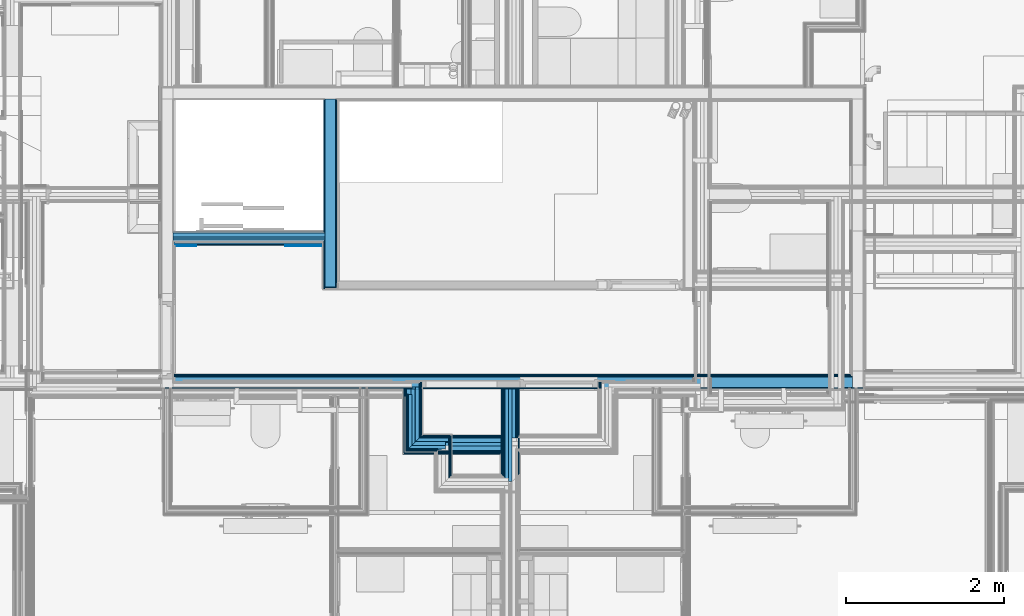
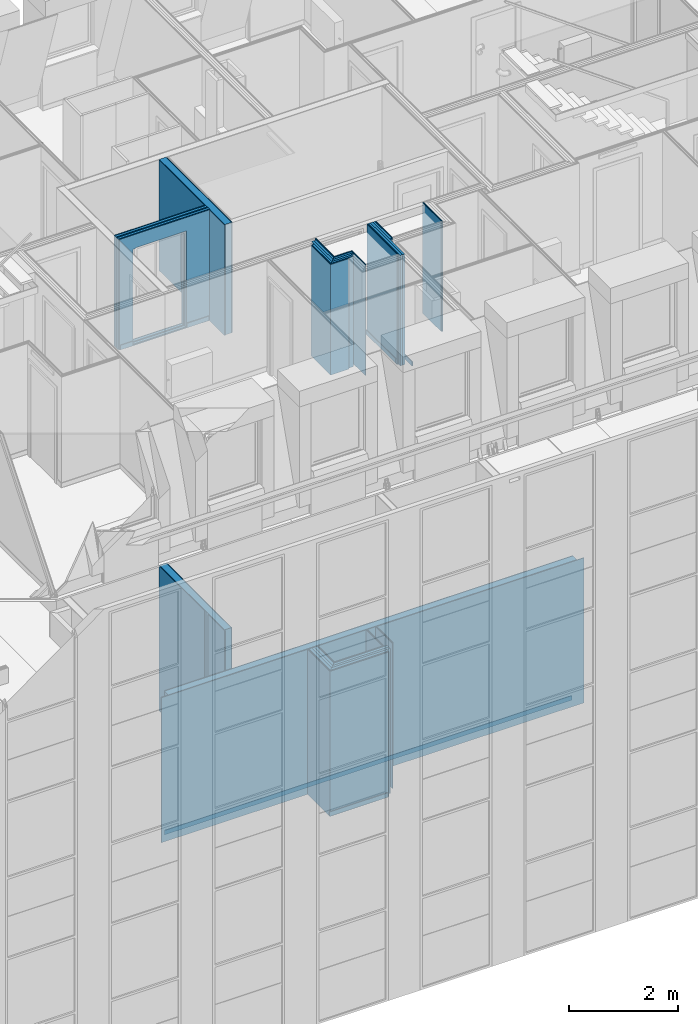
# One storey, part 22 of 169: 65 building element parts, 1 opening, 12 elements without a shape of their own.
"""IFC2X3 building model written with IfcOpenShell, lengths in metres."""

import ifcopenshell
import ifcopenshell.guid

model = None  # the IFC model being written
_history = None  # IfcOwnerHistory: only IFC2X3 demands one
_inside = {}  # id of a spatial element -> (the spatial element, [elements in it])
_under = {}  # id of a project, library or spatial element -> (it, [spatial elements below it])
_declared = {}  # id of a project -> (the project, [libraries it declares])
_typed = {}  # id of a type object -> (the type object, [elements of that type])
_made_of = {}  # id of a material, layer set ... -> (it, [elements and type objects made of it])


def new_model(schema):
    """Start an empty IFC model of exactly this schema.

    Asked for "IFC4X3", IfcOpenShell would pick the latest addendum, in which some entities
    have other attributes; the version numbers below select the first issue.
    IFC2X3 requires an IfcOwnerHistory on every rooted entity: one is made here for all.
    """
    global model, _history
    if schema == "IFC4X3":
        model = ifcopenshell.file(schema_version=(4, 3, 0, 0))
    else:
        model = ifcopenshell.file(schema=schema)
    _inside.clear()
    _under.clear()
    _declared.clear()
    _typed.clear()
    _made_of.clear()
    _history = None
    if model.schema == "IFC2X3":
        org = make("IfcOrganization", Name="unknown")
        user = make(
            "IfcPersonAndOrganization",
            ThePerson=make("IfcPerson", FamilyName="unknown"),
            TheOrganization=org,
        )
        app = make(
            "IfcApplication",
            ApplicationDeveloper=org,
            Version="unknown",
            ApplicationFullName="unknown",
            ApplicationIdentifier="unknown",
        )
        _history = make(
            "IfcOwnerHistory",
            OwningUser=user,
            OwningApplication=app,
            ChangeAction="ADDED",
            CreationDate=0,
        )
    return model


def make(cls, **values):
    """One entity of the class cls with the attributes given. An attribute that is None is left unset."""
    return model.create_entity(
        cls, **{name: value for name, value in values.items() if value is not None}
    )


def entity(cls, *values):
    """Any entity or typed value of the class cls, its attributes in the order of the schema. None: left unset."""
    e = model.create_entity(cls)
    for i, value in enumerate(values):
        if value is not None:
            e[i] = value
    return e


def rooted(cls, **values):
    """An entity with a GlobalId (a new one), such as an element, a storey or a relation."""
    return make(cls, GlobalId=ifcopenshell.guid.new(), OwnerHistory=_history, **values)


def si_unit(unit_type, name, prefix=None):
    """IfcSIUnit, for example si_unit("LENGTHUNIT", "METRE", prefix="MILLI")."""
    return make("IfcSIUnit", UnitType=unit_type, Prefix=prefix, Name=name)


def converted_unit(unit_type, name, factor, base, dimensions=None, offset=None):
    """IfcConversionBasedUnit, such as the inch: factor (a typed value) times the base unit."""
    return make(
        "IfcConversionBasedUnit"
        if offset is None
        else "IfcConversionBasedUnitWithOffset",
        ConversionOffset=offset,
        Dimensions=None
        if dimensions is None
        else entity("IfcDimensionalExponents", *dimensions),
        UnitType=unit_type,
        Name=name,
        ConversionFactor=make(
            "IfcMeasureWithUnit", ValueComponent=factor, UnitComponent=base
        ),
    )


def derived_unit(unit_type, elements):
    """IfcDerivedUnit: a product of units, each with its exponent."""
    return make(
        "IfcDerivedUnit",
        Elements=[
            make("IfcDerivedUnitElement", Unit=unit, Exponent=power)
            for unit, power in elements
        ],
        UnitType=unit_type,
    )


def money_unit(currency):
    """IfcMonetaryUnit."""
    return make("IfcMonetaryUnit", Currency=currency)


def assignment(units):
    """IfcUnitAssignment: the units of a project."""
    return None if units is None else make("IfcUnitAssignment", Units=units)


def point(xyz):
    """IfcCartesianPoint."""
    return None if xyz is None else make("IfcCartesianPoint", Coordinates=xyz)


def direction(xyz):
    """IfcDirection."""
    return None if xyz is None else make("IfcDirection", DirectionRatios=xyz)


def frame(location, z_axis=None, x_axis=None):
    """IfcAxis2Placement3D, a coordinate frame: its origin and axes. An axis left out is left unset."""
    return make(
        "IfcAxis2Placement3D",
        Location=point(location),
        Axis=direction(z_axis),
        RefDirection=direction(x_axis),
    )


def frame_2d(location, x_axis=None):
    """IfcAxis2Placement2D, a coordinate frame in the plane: its origin and x axis."""
    return make(
        "IfcAxis2Placement2D", Location=point(location), RefDirection=direction(x_axis)
    )


def origin_with_axes():
    """The frame at (0, 0, 0) with the z axis (0, 0, 1) and the x axis (1, 0, 0) written out."""
    return frame((0.0, 0.0, 0.0), z_axis=(0.0, 0.0, 1.0), x_axis=(1.0, 0.0, 0.0))


def place(relative_to, where):
    """IfcLocalPlacement: puts the frame where relative to a parent placement (None: the world)."""
    return make(
        "IfcLocalPlacement", PlacementRelTo=relative_to, RelativePlacement=where
    )


def context(
    kind, dimensions, precision=None, world=None, true_north=None, identifier=None
):
    """IfcGeometricRepresentationContext, for example the 3D "Model" context."""
    return make(
        "IfcGeometricRepresentationContext",
        ContextIdentifier=identifier,
        ContextType=kind,
        CoordinateSpaceDimension=dimensions,
        Precision=precision,
        WorldCoordinateSystem=world,
        TrueNorth=true_north,
    )


def subcontext(parent, identifier, kind, view, scale=None):
    """IfcGeometricRepresentationSubContext, for example "Body" below "Model"."""
    return make(
        "IfcGeometricRepresentationSubContext",
        ContextIdentifier=identifier,
        ContextType=kind,
        ParentContext=parent,
        TargetScale=scale,
        TargetView=view,
    )


def project(units=None, contexts=None):
    """IfcProject with its units and contexts."""
    return rooted(
        "IfcProject",
        Name="project",
        RepresentationContexts=contexts,
        UnitsInContext=assignment(units),
    )


def spatial(cls, under=None, at=None, **own):
    """A site, building, storey or space (cls), placed at a placement, below another one or the project."""
    s = rooted(cls, ObjectPlacement=at, **own)
    if under is not None:
        _under.setdefault(under.id(), (under, []))[1].append(s)
    return s


def polyline(points):
    """IfcPolyline through the points."""
    return make("IfcPolyline", Points=[point(p) for p in points])


def profile(cls, at=None, kind="AREA", **sizes):
    """A parametric profile (cls). Its sizes go by their IFC names, for example OverallWidth=200.0."""
    return make(cls, ProfileType=kind, Position=at, **sizes)


def rectangle(**sizes):
    """IfcRectangleProfileDef."""
    return profile("IfcRectangleProfileDef", **sizes)


def outline(outer, holes=None, kind="AREA"):
    """IfcArbitraryClosedProfileDef: a profile drawn as a closed curve; with holes, ...WithVoids."""
    if holes is None:
        return make("IfcArbitraryClosedProfileDef", ProfileType=kind, OuterCurve=outer)
    return make(
        "IfcArbitraryProfileDefWithVoids",
        ProfileType=kind,
        OuterCurve=outer,
        InnerCurves=holes,
    )


def extrude(swept, where, along, depth):
    """IfcExtrudedAreaSolid: the profile swept, set in the frame where, extruded along a direction by depth."""
    return make(
        "IfcExtrudedAreaSolid",
        SweptArea=swept,
        Position=where,
        ExtrudedDirection=direction(along),
        Depth=depth,
    )


def shape(context_of_items, identifier, shape_type, items):
    """IfcShapeRepresentation: the items that make up one representation, for example the "Body"."""
    return make(
        "IfcShapeRepresentation",
        ContextOfItems=context_of_items,
        RepresentationIdentifier=identifier,
        RepresentationType=shape_type,
        Items=items,
    )


def material(Name=None, Category=None):
    """IfcMaterial."""
    return make("IfcMaterial", Name=Name, Category=Category)


def made_of(thing, what):
    """Note that an element or type object is made of a material, layer set ...; save() writes the relation."""
    if what is not None:
        _made_of.setdefault(what.id(), (what, []))[1].append(thing)
    return thing


def type_object(cls, material=None, **own):
    """A type object (cls), such as IfcWallType, which elements share."""
    return made_of(rooted(cls, **own), material)


def element(
    cls,
    number,
    at=None,
    inside=None,
    cuts=None,
    type_object=None,
    material=None,
    context=None,
    identifier="Body",
    shape_type=None,
    held_by="IfcProductDefinitionShape",
    body=None,
    shapes=None,
    **own,
):
    """One element of the class cls, such as IfcWall. Its Tag is "e" and its number.

    at: its placement. inside: the storey or other place that contains it. cuts: it is an
    opening in that element (IfcRelVoidsElement). A single representation is given by context,
    identifier, shape_type and body (its items); several are given by shapes. held_by: the class
    of the entity that holds the representations. save() writes the other relations.
    """
    e = rooted(cls, Tag="e%d" % number, ObjectPlacement=at, **own)
    if body is not None:
        shapes = [shape(context, identifier, shape_type, body)]
    if shapes is not None:
        e.Representation = make(held_by, Representations=shapes)
    if inside is not None:
        _inside.setdefault(inside.id(), (inside, []))[1].append(e)
    if cuts is not None:
        rooted(
            "IfcRelVoidsElement", RelatingBuildingElement=cuts, RelatedOpeningElement=e
        )
    if type_object is not None:
        _typed.setdefault(type_object.id(), (type_object, []))[1].append(e)
    return made_of(e, material)


def aggregate(whole, parts):
    """IfcRelAggregates: a whole, such as a stair, and the parts it consists of."""
    return rooted("IfcRelAggregates", RelatingObject=whole, RelatedObjects=parts)


def save(model, path):
    """Write the relations noted so far, then the file.

    IfcRelAggregates (storeys below a building ...), IfcRelContainedInSpatialStructure (elements
    in a storey), IfcRelDefinesByType, IfcRelAssociatesMaterial and IfcRelDeclares: one each for
    every whole, place, type object, material and project.
    """
    for whole, parts in _under.values():
        aggregate(whole, parts)
    for where, things in _inside.values():
        rooted(
            "IfcRelContainedInSpatialStructure",
            RelatedElements=things,
            RelatingStructure=where,
        )
    for kind, things in _typed.values():
        rooted("IfcRelDefinesByType", RelatedObjects=things, RelatingType=kind)
    for what, things in _made_of.values():
        rooted("IfcRelAssociatesMaterial", RelatedObjects=things, RelatingMaterial=what)
    for by, libraries in _declared.values():
        rooted("IfcRelDeclares", RelatingContext=by, RelatedDefinitions=libraries)
    model.write(path)


model = new_model("IFC2X3")

# Units and contexts
model_context = context("Model", 3, precision=1e-05, world=origin_with_axes(), true_north=direction((0.0, 1.0)))
body_context = subcontext(model_context, "Body", "Model", "MODEL_VIEW", scale=1.0)
ifc_project = project(units=[si_unit("LENGTHUNIT", "METRE"), si_unit("AREAUNIT", "SQUARE_METRE"), si_unit("VOLUMEUNIT", "CUBIC_METRE"), si_unit("ABSORBEDDOSEUNIT", "GRAY"), si_unit("AMOUNTOFSUBSTANCEUNIT", "MOLE"), si_unit("DOSEEQUIVALENTUNIT", "SIEVERT"), si_unit("ELECTRICCAPACITANCEUNIT", "FARAD"), si_unit("ELECTRICCHARGEUNIT", "COULOMB"), si_unit("ELECTRICCONDUCTANCEUNIT", "SIEMENS"), si_unit("ELECTRICCURRENTUNIT", "AMPERE"), si_unit("ELECTRICRESISTANCEUNIT", "OHM"), si_unit("ELECTRICVOLTAGEUNIT", "VOLT"), si_unit("ENERGYUNIT", "JOULE"), si_unit("FORCEUNIT", "NEWTON"), si_unit("FREQUENCYUNIT", "HERTZ"), si_unit("ILLUMINANCEUNIT", "LUX"), si_unit("INDUCTANCEUNIT", "HENRY"), si_unit("LUMINOUSFLUXUNIT", "LUMEN"), si_unit("LUMINOUSINTENSITYUNIT", "CANDELA"), si_unit("MAGNETICFLUXDENSITYUNIT", "TESLA"), si_unit("MAGNETICFLUXUNIT", "WEBER"), si_unit("MASSUNIT", "GRAM"), converted_unit("PLANEANGLEUNIT", "degree", entity("IfcReal", 0.0174532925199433), si_unit("PLANEANGLEUNIT", "RADIAN"), dimensions=[0, 0, 0, 0, 0, 0, 0]), si_unit("POWERUNIT", "WATT"), si_unit("PRESSUREUNIT", "PASCAL"), si_unit("RADIOACTIVITYUNIT", "BECQUEREL"), si_unit("SOLIDANGLEUNIT", "STERADIAN"), si_unit("THERMODYNAMICTEMPERATUREUNIT", "KELVIN"), si_unit("TIMEUNIT", "SECOND"), derived_unit("ACCELERATIONUNIT", [(si_unit("LENGTHUNIT", "METRE"), 1), (si_unit("TIMEUNIT", "SECOND"), -2)]), derived_unit("ANGULARVELOCITYUNIT", [(converted_unit("PLANEANGLEUNIT", "degree", entity("IfcReal", 0.0174532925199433), si_unit("PLANEANGLEUNIT", "RADIAN"), dimensions=[0, 0, 0, 0, 0, 0, 0]), 1), (si_unit("TIMEUNIT", "SECOND"), -1)]), derived_unit("CURVATUREUNIT", [(converted_unit("PLANEANGLEUNIT", "degree", entity("IfcReal", 0.0174532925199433), si_unit("PLANEANGLEUNIT", "RADIAN"), dimensions=[0, 0, 0, 0, 0, 0, 0]), 1), (si_unit("LENGTHUNIT", "METRE"), -1)]), derived_unit("DYNAMICVISCOSITYUNIT", [(si_unit("PRESSUREUNIT", "PASCAL"), 1), (si_unit("TIMEUNIT", "SECOND"), 1)]), derived_unit("HEATFLUXDENSITYUNIT", [(si_unit("POWERUNIT", "WATT"), 1), (si_unit("LENGTHUNIT", "METRE"), -2)]), derived_unit("HEATINGVALUEUNIT", [(si_unit("ENERGYUNIT", "JOULE"), 1), (si_unit("MASSUNIT", "GRAM"), -1)]), derived_unit("INTEGERCOUNTRATEUNIT", [(si_unit("TIMEUNIT", "SECOND"), -1)]), derived_unit("IONCONCENTRATIONUNIT", [(si_unit("MASSUNIT", "GRAM"), 1), (si_unit("VOLUMEUNIT", "CUBIC_METRE"), -1)]), derived_unit("ISOTHERMALMOISTURECAPACITYUNIT", [(si_unit("VOLUMEUNIT", "CUBIC_METRE"), 1), (si_unit("MASSUNIT", "GRAM"), -1)]), derived_unit("KINEMATICVISCOSITYUNIT", [(si_unit("AREAUNIT", "SQUARE_METRE"), 1), (si_unit("TIMEUNIT", "SECOND"), -1)]), derived_unit("LINEARFORCEUNIT", [(si_unit("FORCEUNIT", "NEWTON"), 1), (si_unit("LENGTHUNIT", "METRE"), -1)]), derived_unit("LINEARMOMENTUNIT", [(si_unit("FORCEUNIT", "NEWTON"), 1), (si_unit("LENGTHUNIT", "METRE"), -1)]), derived_unit("LINEARSTIFFNESSUNIT", [(si_unit("FORCEUNIT", "NEWTON"), 1), (si_unit("LENGTHUNIT", "METRE"), -1)]), derived_unit("LINEARVELOCITYUNIT", [(si_unit("LENGTHUNIT", "METRE"), 1), (si_unit("TIMEUNIT", "SECOND"), -1)]), derived_unit("LUMINOUSINTENSITYDISTRIBUTIONUNIT", [(si_unit("LUMINOUSINTENSITYUNIT", "CANDELA"), 1), (si_unit("LUMINOUSFLUXUNIT", "LUMEN"), -1)]), derived_unit("MASSDENSITYUNIT", [(si_unit("MASSUNIT", "GRAM"), 1), (si_unit("VOLUMEUNIT", "CUBIC_METRE"), -1)]), derived_unit("MASSFLOWRATEUNIT", [(si_unit("MASSUNIT", "GRAM"), 1), (si_unit("TIMEUNIT", "SECOND"), -1)]), derived_unit("MASSPERLENGTHUNIT", [(si_unit("MASSUNIT", "GRAM"), 1), (si_unit("LENGTHUNIT", "METRE"), -1)]), derived_unit("MODULUSOFELASTICITYUNIT", [(si_unit("FORCEUNIT", "NEWTON"), 1), (si_unit("AREAUNIT", "SQUARE_METRE"), -1)]), derived_unit("MODULUSOFLINEARSUBGRADEREACTIONUNIT", [(si_unit("FORCEUNIT", "NEWTON"), 1), (si_unit("LENGTHUNIT", "METRE"), -2)]), derived_unit("MODULUSOFROTATIONALSUBGRADEREACTIONUNIT", [(si_unit("FORCEUNIT", "NEWTON"), 1), (si_unit("LENGTHUNIT", "METRE"), 1)]), derived_unit("MODULUSOFSUBGRADEREACTIONUNIT", [(si_unit("FORCEUNIT", "NEWTON"), 1), (si_unit("VOLUMEUNIT", "CUBIC_METRE"), -1)]), derived_unit("MOISTUREDIFFUSIVITYUNIT", [(si_unit("VOLUMEUNIT", "CUBIC_METRE"), 1), (si_unit("TIMEUNIT", "SECOND"), -1)]), derived_unit("MOLECULARWEIGHTUNIT", [(si_unit("MASSUNIT", "GRAM"), 1), (si_unit("AMOUNTOFSUBSTANCEUNIT", "MOLE"), -1)]), derived_unit("PLANARFORCEUNIT", [(si_unit("FORCEUNIT", "NEWTON"), 1), (si_unit("LENGTHUNIT", "METRE"), -2)]), derived_unit("ROTATIONALFREQUENCYUNIT", [(si_unit("TIMEUNIT", "SECOND"), -1)]), derived_unit("ROTATIONALMASSUNIT", [(si_unit("MASSUNIT", "GRAM"), 1), (si_unit("LENGTHUNIT", "METRE"), 2)]), derived_unit("ROTATIONALSTIFFNESSUNIT", [(si_unit("FORCEUNIT", "NEWTON"), 1), (si_unit("LENGTHUNIT", "METRE"), 1), (converted_unit("PLANEANGLEUNIT", "degree", entity("IfcReal", 0.0174532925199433), si_unit("PLANEANGLEUNIT", "RADIAN"), dimensions=[0, 0, 0, 0, 0, 0, 0]), -1)]), derived_unit("SECTIONAREAINTEGRALUNIT", [(si_unit("LENGTHUNIT", "METRE"), 5)]), derived_unit("SECTIONMODULUSUNIT", [(si_unit("LENGTHUNIT", "METRE"), 3)]), derived_unit("SHEARMODULUSUNIT", [(si_unit("FORCEUNIT", "NEWTON"), 1), (si_unit("AREAUNIT", "SQUARE_METRE"), -1)]), derived_unit("SOUNDPOWERUNIT", [(si_unit("ENERGYUNIT", "JOULE"), 1), (si_unit("TIMEUNIT", "SECOND"), -1)]), derived_unit("SPECIFICHEATCAPACITYUNIT", [(si_unit("FORCEUNIT", "NEWTON"), 1), (si_unit("MASSUNIT", "GRAM"), -1), (si_unit("THERMODYNAMICTEMPERATUREUNIT", "KELVIN"), -1)]), derived_unit("TEMPERATUREGRADIENTUNIT", [(si_unit("THERMODYNAMICTEMPERATUREUNIT", "KELVIN"), 1), (si_unit("LENGTHUNIT", "METRE"), -1)]), derived_unit("THERMALADMITTANCEUNIT", [(si_unit("POWERUNIT", "WATT"), 1), (si_unit("AREAUNIT", "SQUARE_METRE"), -1), (si_unit("THERMODYNAMICTEMPERATUREUNIT", "KELVIN"), -1)]), derived_unit("THERMALCONDUCTANCEUNIT", [(si_unit("POWERUNIT", "WATT"), 1), (si_unit("LENGTHUNIT", "METRE"), -1), (si_unit("THERMODYNAMICTEMPERATUREUNIT", "KELVIN"), -1)]), derived_unit("THERMALEXPANSIONCOEFFICIENTUNIT", [(si_unit("THERMODYNAMICTEMPERATUREUNIT", "KELVIN"), -1)]), derived_unit("THERMALRESISTANCEUNIT", [(si_unit("AREAUNIT", "SQUARE_METRE"), 1), (si_unit("POWERUNIT", "WATT"), -1)]), derived_unit("THERMALTRANSMITTANCEUNIT", [(si_unit("POWERUNIT", "WATT"), 1), (si_unit("AREAUNIT", "SQUARE_METRE"), -1), (si_unit("THERMODYNAMICTEMPERATUREUNIT", "KELVIN"), -1)]), derived_unit("TORQUEUNIT", [(si_unit("FORCEUNIT", "NEWTON"), 1), (si_unit("LENGTHUNIT", "METRE"), 1)]), derived_unit("VAPORPERMEABILITYUNIT", [(si_unit("MASSUNIT", "GRAM"), 1), (si_unit("TIMEUNIT", "SECOND"), -1)]), derived_unit("VOLUMETRICFLOWRATEUNIT", [(si_unit("VOLUMEUNIT", "CUBIC_METRE"), 1), (si_unit("TIMEUNIT", "SECOND"), -1)]), derived_unit("WARPINGCONSTANTUNIT", [(si_unit("LENGTHUNIT", "METRE"), 6)]), derived_unit("WARPINGMOMENTUNIT", [(si_unit("FORCEUNIT", "NEWTON"), 1), (si_unit("LENGTHUNIT", "METRE"), 2)]), money_unit("GBP")], contexts=[model_context])

# Site, building, storey
site_placement = place(None, origin_with_axes())
site = spatial("IfcSite", under=ifc_project, at=site_placement, Name="Site", CompositionType="ELEMENT")
building_placement = place(site_placement, origin_with_axes())
building = spatial("IfcBuilding", under=site, at=building_placement, Name="Building01", CompositionType="ELEMENT")
storey_placement = place(building_placement, frame((0.0, 0.0, 5.15), z_axis=(0.0, 0.0, 1.0), x_axis=(1.0, 0.0, 0.0)))
storey = spatial("IfcBuildingStorey", under=building, at=storey_placement, Name="1F", CompositionType="ELEMENT", Elevation=5.15)

# Wall, building element parts
wall_type_1 = type_object("IfcWallType", Name="SHE_A-Walls_Type03a_BlockworkWall_170mm", PredefinedType="NOTDEFINED")
wall_1_placement = place(storey_placement, frame((11.145, 6.275, 0.0), z_axis=(0.0, 0.0, 1.0), x_axis=(0.0, 1.0, 0.0)))
wall_1 = element("IfcWall", 1, at=wall_1_placement, inside=storey, type_object=wall_type_1, Name="4B", ObjectType="SHE_A-Walls_Type03a_BlockworkWall_170mm")
ifc_material_1 = material(Name="A_BSUK_WallInternal_Finishes_Plasterboard")
placement_1 = place(wall_1_placement, origin_with_axes())
building_element_part_1 = element("IfcBuildingElementPart", 2, at=placement_1, material=ifc_material_1, Name="2", context=body_context, shape_type="SweptSolid", body=[
    extrude(rectangle(XDim=2.375, YDim=0.015, at=frame_2d((1.1875, -0.1475), x_axis=(-1.0, 0.0))), origin_with_axes(), (0.0, 0.0, 1.0), 3.24),
])
ifc_material_2 = material(Name="A_BSUK_WallsInternal_Block")
building_element_part_2 = element("IfcBuildingElementPart", 3, at=placement_1, material=ifc_material_2, Name="3", context=body_context, shape_type="SweptSolid", body=[
    extrude(rectangle(XDim=2.39, YDim=0.14, at=frame_2d((1.195, -0.07), x_axis=(-1.0, 0.0))), origin_with_axes(), (0.0, 0.0, 1.0), 3.24),
])
ifc_material_3 = material(Name="A_BSUK_WallInternal_Finishes_Plaster")
building_element_part_3 = element("IfcBuildingElementPart", 4, at=placement_1, material=ifc_material_3, Name="4", context=body_context, shape_type="SweptSolid", body=[
    extrude(outline(polyline([(0.575, 0.015), (-0.025, 0.015), (-0.025, 0.0), (0.59, 0.0), (0.575, 0.015)])), origin_with_axes(), (0.0, 0.0, 1.0), 3.24),
])
building_element_part_4 = element("IfcBuildingElementPart", 5, at=placement_1, material=ifc_material_3, Name="5", context=body_context, shape_type="SweptSolid", body=[
    extrude(outline(polyline([(2.375, 0.015), (0.705, 0.015), (0.69, 0.0), (2.375, 0.0), (2.375, 0.015)])), origin_with_axes(), (0.0, 0.0, 1.0), 3.24),
])
aggregate(wall_1, [building_element_part_1, building_element_part_2, building_element_part_3, building_element_part_4])

wall_type_2 = type_object("IfcWallType", Name="SHE_A-Walls_Type01c_Partywall_225mm_twin_tall", PredefinedType="NOTDEFINED")
wall_2_placement = place(storey_placement, frame((12.288, 4.302428, 0.0), z_axis=(0.0, 0.0, 1.0), x_axis=(1.0, 0.0, 0.0)))
wall_2 = element("IfcWall", 6, at=wall_2_placement, inside=storey, type_object=wall_type_2, Name="1C", ObjectType="SHE_A-Walls_Type01c_Partywall_225mm_twin_tall")
ifc_material_4 = material(Name="A_BSUK_Walls_Timber")
placement_2 = place(wall_2_placement, origin_with_axes())
building_element_part_5 = element("IfcBuildingElementPart", 7, at=placement_2, material=ifc_material_4, Name="1", context=body_context, shape_type="SweptSolid", body=[
    extrude(rectangle(XDim=1.2375, YDim=0.015, at=frame_2d((0.46575, -0.1455), x_axis=(-1.0, 0.0))), frame((0.0, 0.0, 0.015), z_axis=(0.0, 0.0, 1.0), x_axis=(1.0, 0.0, 0.0)), (0.0, 0.0, 1.0), 0.1),
])
building_element_part_6 = element("IfcBuildingElementPart", 8, at=placement_2, material=ifc_material_1, Name="2", context=body_context, shape_type="SweptSolid", body=[
    extrude(outline(polyline([(1.0995, -0.123), (-0.123, -0.123), (-0.138, -0.138), (1.0995, -0.138), (1.0995, -0.123)])), origin_with_axes(), (0.0, 0.0, 1.0), 3.24),
])
building_element_part_7 = element("IfcBuildingElementPart", 9, at=placement_2, material=ifc_material_1, Name="3", context=body_context, shape_type="SweptSolid", body=[
    extrude(outline(polyline([(1.1145, -0.108), (-0.108, -0.108), (-0.123, -0.123), (1.1145, -0.123), (1.1145, -0.108)])), origin_with_axes(), (0.0, 0.0, 1.0), 3.24),
])
ifc_material_5 = material(Name="Air Cavity")
building_element_part_8 = element("IfcBuildingElementPart", 10, at=placement_2, material=ifc_material_5, Name="4", context=body_context, shape_type="SweptSolid", body=[
    extrude(outline(polyline([(1.1145, -0.05), (-0.05, -0.05), (-0.108, -0.108), (1.1145, -0.108), (1.1145, -0.05)])), origin_with_axes(), (0.0, 0.0, 1.0), 3.24),
])
ifc_material_6 = material(Name="A_BSUK_Insulation")
building_element_part_9 = element("IfcBuildingElementPart", 11, at=placement_2, material=ifc_material_6, Name="5", context=body_context, shape_type="SweptSolid", body=[
    extrude(outline(polyline([(1.1875, 0.0), (0.0, 0.0), (-0.05, -0.05), (1.1875, -0.05), (1.1875, 0.0)])), origin_with_axes(), (0.0, 0.0, 1.0), 3.24),
])
building_element_part_10 = element("IfcBuildingElementPart", 12, at=placement_2, material=ifc_material_5, Name="6", context=body_context, shape_type="SweptSolid", body=[
    extrude(outline(polyline([(1.1875, 0.057), (0.057, 0.057), (0.0, 0.0), (1.1875, 0.0), (1.1875, 0.057)])), origin_with_axes(), (0.0, 0.0, 1.0), 3.24),
])
building_element_part_11 = element("IfcBuildingElementPart", 13, at=placement_2, material=ifc_material_1, Name="7", context=body_context, shape_type="SweptSolid", body=[
    extrude(outline(polyline([(1.1145, 0.072), (0.072, 0.072), (0.057, 0.057), (1.1145, 0.057), (1.1145, 0.072)])), origin_with_axes(), (0.0, 0.0, 1.0), 3.24),
])
building_element_part_12 = element("IfcBuildingElementPart", 14, at=placement_2, material=ifc_material_1, Name="8", context=body_context, shape_type="SweptSolid", body=[
    extrude(outline(polyline([(1.1145, 0.087), (0.087, 0.087), (0.072, 0.072), (1.1145, 0.072), (1.1145, 0.087)])), origin_with_axes(), (0.0, 0.0, 1.0), 3.24),
])
aggregate(wall_2, [building_element_part_5, building_element_part_6, building_element_part_7, building_element_part_8, building_element_part_9, building_element_part_10, building_element_part_11, building_element_part_12])

wall_3_placement = place(storey_placement, frame((13.5005, 4.995, 0.0), z_axis=(0.0, 0.0, 1.0), x_axis=(0.0, -1.0, 0.0)))
wall_3 = element("IfcWall", 15, at=wall_3_placement, inside=storey, type_object=wall_type_2, Name="1C", ObjectType="SHE_A-Walls_Type01c_Partywall_225mm_twin_tall")
placement_3 = place(wall_3_placement, origin_with_axes())
building_element_part_13 = element("IfcBuildingElementPart", 16, at=placement_3, material=ifc_material_1, Name="2", context=body_context, shape_type="SweptSolid", body=[
    extrude(rectangle(XDim=0.590572, YDim=0.015, at=frame_2d((0.310286, -0.1055), x_axis=(-1.0, 0.0))), origin_with_axes(), (0.0, 0.0, 1.0), 3.24),
])
building_element_part_14 = element("IfcBuildingElementPart", 17, at=placement_3, material=ifc_material_1, Name="4", context=body_context, shape_type="SweptSolid", body=[
    extrude(rectangle(XDim=0.620572, YDim=0.015, at=frame_2d((0.325286, -0.0905), x_axis=(-1.0, 0.0))), origin_with_axes(), (0.0, 0.0, 1.0), 3.24),
])
building_element_part_15 = element("IfcBuildingElementPart", 18, at=placement_3, material=ifc_material_1, Name="9", context=body_context, shape_type="SweptSolid", body=[
    extrude(rectangle(XDim=0.620572, YDim=0.015, at=frame_2d((0.325286, 0.0895), x_axis=(-1.0, 0.0))), origin_with_axes(), (0.0, 0.0, 1.0), 3.24),
])
building_element_part_16 = element("IfcBuildingElementPart", 19, at=placement_3, material=ifc_material_1, Name="11", context=body_context, shape_type="SweptSolid", body=[
    extrude(rectangle(XDim=0.590572, YDim=0.015, at=frame_2d((0.310286, 0.1045), x_axis=(-1.0, 0.0))), origin_with_axes(), (0.0, 0.0, 1.0), 3.24),
])
aggregate(wall_3, [building_element_part_13, building_element_part_14, building_element_part_15, building_element_part_16])

wall_4_placement = place(storey_placement, frame((12.288, 4.98, 0.0), z_axis=(0.0, 0.0, 1.0), x_axis=(0.0, -1.0, 0.0)))
wall_4 = element("IfcWall", 20, at=wall_4_placement, inside=storey, type_object=wall_type_2, Name="1C", ObjectType="SHE_A-Walls_Type01c_Partywall_225mm_twin_tall")
placement_4 = place(wall_4_placement, origin_with_axes())
building_element_part_17 = element("IfcBuildingElementPart", 21, at=placement_4, material=ifc_material_1, Name="3", context=body_context, shape_type="SweptSolid", body=[
    extrude(outline(polyline([(0.800572, -0.123), (0.0, -0.123), (0.0, -0.138), (0.815572, -0.138), (0.800572, -0.123)])), origin_with_axes(), (0.0, 0.0, 1.0), 3.24),
])
building_element_part_18 = element("IfcBuildingElementPart", 22, at=placement_4, material=ifc_material_1, Name="4", context=body_context, shape_type="SweptSolid", body=[
    extrude(outline(polyline([(0.785572, -0.108), (0.0, -0.108), (0.0, -0.123), (0.800572, -0.123), (0.785572, -0.108)])), origin_with_axes(), (0.0, 0.0, 1.0), 3.24),
])
building_element_part_19 = element("IfcBuildingElementPart", 23, at=placement_4, material=ifc_material_5, Name="5", context=body_context, shape_type="SweptSolid", body=[
    extrude(outline(polyline([(0.727572, -0.05), (0.0, -0.05), (0.0, -0.108), (0.785572, -0.108), (0.727572, -0.05)])), origin_with_axes(), (0.0, 0.0, 1.0), 3.24),
])
building_element_part_20 = element("IfcBuildingElementPart", 24, at=placement_4, material=ifc_material_6, Name="6", context=body_context, shape_type="SweptSolid", body=[
    extrude(outline(polyline([(0.677572, 0.0), (0.0, 0.0), (0.0, -0.05), (0.727572, -0.05), (0.677572, 0.0)])), origin_with_axes(), (0.0, 0.0, 1.0), 3.24),
])
building_element_part_21 = element("IfcBuildingElementPart", 25, at=placement_4, material=ifc_material_5, Name="7", context=body_context, shape_type="SweptSolid", body=[
    extrude(outline(polyline([(0.620572, 0.057), (0.0, 0.057), (0.0, 0.0), (0.677572, 0.0), (0.620572, 0.057)])), origin_with_axes(), (0.0, 0.0, 1.0), 3.24),
])
building_element_part_22 = element("IfcBuildingElementPart", 26, at=placement_4, material=ifc_material_1, Name="8", context=body_context, shape_type="SweptSolid", body=[
    extrude(outline(polyline([(0.605572, 0.072), (0.0, 0.072), (0.0, 0.057), (0.620572, 0.057), (0.605572, 0.072)])), origin_with_axes(), (0.0, 0.0, 1.0), 3.24),
])
building_element_part_23 = element("IfcBuildingElementPart", 27, at=placement_4, material=ifc_material_1, Name="9", context=body_context, shape_type="SweptSolid", body=[
    extrude(outline(polyline([(0.590572, 0.087), (0.0, 0.087), (0.0, 0.072), (0.605572, 0.072), (0.590572, 0.087)])), origin_with_axes(), (0.0, 0.0, 1.0), 3.24),
])
aggregate(wall_4, [building_element_part_17, building_element_part_18, building_element_part_19, building_element_part_20, building_element_part_21, building_element_part_22, building_element_part_23])

wall_5_placement = place(storey_placement, frame((9.215, 4.995, 0.0), z_axis=(0.0, 0.0, 1.0), x_axis=(1.0, 0.0, 0.0)))
wall_5 = element("IfcWall", 28, at=wall_5_placement, inside=storey, type_object=wall_type_1, Name="4B", ObjectType="SHE_A-Walls_Type03a_BlockworkWall_170mm")
placement_5 = place(wall_5_placement, origin_with_axes())
building_element_part_24 = element("IfcBuildingElementPart", 29, at=placement_5, material=ifc_material_1, Name="7", context=body_context, shape_type="SweptSolid", body=[
    extrude(rectangle(XDim=8.925, YDim=0.015, at=frame_2d((4.3075, -0.0075), x_axis=(-1.0, 0.0))), origin_with_axes(), (0.0, 0.0, 1.0), 3.24),
])
building_element_part_25 = element("IfcBuildingElementPart", 30, at=placement_5, material=ifc_material_2, Name="8", context=body_context, shape_type="SweptSolid", body=[
    extrude(rectangle(XDim=8.63, YDim=0.14, at=frame_2d((4.315, 0.07), x_axis=(-1.0, 0.0))), origin_with_axes(), (0.0, 0.0, 1.0), 3.24),
])
building_element_part_26 = element("IfcBuildingElementPart", 31, at=placement_5, material=ifc_material_3, Name="9", context=body_context, shape_type="SweptSolid", body=[
    extrude(rectangle(XDim=8.615, YDim=0.015, at=frame_2d((4.3225, 0.1475), x_axis=(-1.0, 0.0))), origin_with_axes(), (0.0, 0.0, 1.0), 3.24),
])
building_element_part_27 = element("IfcBuildingElementPart", 32, at=placement_5, material=ifc_material_4, Name="10", context=body_context, shape_type="SweptSolid", body=[
    extrude(rectangle(XDim=8.6, YDim=0.015, at=frame_2d((4.315, 0.1625), x_axis=(-1.0, 0.0))), frame((0.0, 0.0, 0.015), z_axis=(0.0, 0.0, 1.0), x_axis=(1.0, 0.0, 0.0)), (0.0, 0.0, 1.0), 0.1),
])
aggregate(wall_5, [building_element_part_24, building_element_part_25, building_element_part_26, building_element_part_27])

wall_6_placement = place(storey_placement, frame((11.145, 6.263, 9.83), z_axis=(0.0, 0.0, 1.0), x_axis=(0.0, 1.0, 0.0)))
wall_6 = element("IfcWall", 33, at=wall_6_placement, inside=storey, type_object=wall_type_1, Name="4B", ObjectType="SHE_A-Walls_Type03a_BlockworkWall_170mm")
placement_6 = place(wall_6_placement, origin_with_axes())
building_element_part_28 = element("IfcBuildingElementPart", 34, at=placement_6, material=ifc_material_1, Name="2", context=body_context, shape_type="SweptSolid", body=[
    extrude(rectangle(XDim=2.387, YDim=0.015, at=frame_2d((1.1935, -0.1475), x_axis=(-1.0, 0.0))), origin_with_axes(), (0.0, 0.0, 1.0), 2.468),
])
building_element_part_29 = element("IfcBuildingElementPart", 35, at=placement_6, material=ifc_material_2, Name="3", context=body_context, shape_type="SweptSolid", body=[
    extrude(rectangle(XDim=2.402, YDim=0.14, at=frame_2d((1.201, -0.07), x_axis=(-1.0, 0.0))), origin_with_axes(), (0.0, 0.0, 1.0), 2.468),
])
building_element_part_30 = element("IfcBuildingElementPart", 36, at=placement_6, material=ifc_material_3, Name="4", context=body_context, shape_type="SweptSolid", body=[
    extrude(rectangle(XDim=0.557, YDim=0.015, at=frame_2d((0.2655, 0.0075), x_axis=(-1.0, 0.0))), origin_with_axes(), (0.0, 0.0, 1.0), 2.468),
])
building_element_part_31 = element("IfcBuildingElementPart", 37, at=placement_6, material=ifc_material_3, Name="5", context=body_context, shape_type="SweptSolid", body=[
    extrude(outline(polyline([(2.387, 0.015), (0.717, 0.015), (0.702, 0.0), (2.387, 0.0), (2.387, 0.015)])), origin_with_axes(), (0.0, 0.0, 1.0), 2.468),
])
aggregate(wall_6, [building_element_part_28, building_element_part_29, building_element_part_30, building_element_part_31])

wall_type_3 = type_object("IfcWallType", Name="SHE_A-Walls_Type01d_Partywall_200mm_twin", PredefinedType="NOTDEFINED")
wall_7_placement = place(storey_placement, frame((12.25, 5.005, 9.83), z_axis=(0.0, 0.0, 1.0), x_axis=(0.0, -1.0, 0.0)))
wall_7 = element("IfcWall", 38, at=wall_7_placement, inside=storey, type_object=wall_type_3, Name="1D", ObjectType="SHE_A-Walls_Type01d_Partywall_200mm_twin")
placement_7 = place(wall_7_placement, origin_with_axes())
building_element_part_32 = element("IfcBuildingElementPart", 39, at=placement_7, material=ifc_material_1, Name="2", context=body_context, shape_type="SweptSolid", body=[
    extrude(outline(polyline([(0.800572, -0.06), (0.11, -0.06), (0.11, -0.075), (0.815572, -0.075), (0.800572, -0.06)])), origin_with_axes(), (0.0, 0.0, 1.0), 2.468),
])
building_element_part_33 = element("IfcBuildingElementPart", 40, at=placement_7, material=ifc_material_1, Name="3", context=body_context, shape_type="SweptSolid", body=[
    extrude(outline(polyline([(0.785572, -0.045), (0.095, -0.045), (0.095, -0.06), (0.800572, -0.06), (0.785572, -0.045)])), origin_with_axes(), (0.0, 0.0, 1.0), 2.468),
])
building_element_part_34 = element("IfcBuildingElementPart", 41, at=placement_7, material=ifc_material_5, Name="4", context=body_context, shape_type="SweptSolid", body=[
    extrude(outline(polyline([(0.740572, 0.0), (0.095, 0.0), (0.095, -0.045), (0.785572, -0.045), (0.740572, 0.0)])), origin_with_axes(), (0.0, 0.0, 1.0), 2.468),
])
building_element_part_35 = element("IfcBuildingElementPart", 42, at=placement_7, material=ifc_material_6, Name="5", context=body_context, shape_type="SweptSolid", body=[
    extrude(outline(polyline([(0.690572, 0.05), (0.0, 0.05), (0.0, 0.0), (0.740572, 0.0), (0.690572, 0.05)])), origin_with_axes(), (0.0, 0.0, 1.0), 2.468),
])
building_element_part_36 = element("IfcBuildingElementPart", 43, at=placement_7, material=ifc_material_5, Name="6", context=body_context, shape_type="SweptSolid", body=[
    extrude(outline(polyline([(0.645572, 0.095), (0.0, 0.095), (0.0, 0.05), (0.690572, 0.05), (0.645572, 0.095)])), origin_with_axes(), (0.0, 0.0, 1.0), 2.468),
])
building_element_part_37 = element("IfcBuildingElementPart", 44, at=placement_7, material=ifc_material_1, Name="7", context=body_context, shape_type="SweptSolid", body=[
    extrude(outline(polyline([(0.630572, 0.11), (-0.045, 0.11), (-0.045, 0.095), (0.645572, 0.095), (0.630572, 0.11)])), origin_with_axes(), (0.0, 0.0, 1.0), 2.468),
])
building_element_part_38 = element("IfcBuildingElementPart", 45, at=placement_7, material=ifc_material_1, Name="8", context=body_context, shape_type="SweptSolid", body=[
    extrude(outline(polyline([(0.615572, 0.125), (-0.06, 0.125), (-0.06, 0.11), (0.630572, 0.11), (0.615572, 0.125)])), origin_with_axes(), (0.0, 0.0, 1.0), 2.468),
])
aggregate(wall_7, [building_element_part_32, building_element_part_33, building_element_part_34, building_element_part_35, building_element_part_36, building_element_part_37, building_element_part_38])

wall_8_placement = place(storey_placement, frame((14.7, 5.005, 9.83), z_axis=(0.0, 0.0, 1.0), x_axis=(0.0, -1.0, 0.0)))
wall_8 = element("IfcWall", 46, at=wall_8_placement, inside=storey, type_object=wall_type_3, Name="1D", ObjectType="SHE_A-Walls_Type01d_Partywall_200mm_twin")
placement_8 = place(wall_8_placement, origin_with_axes())
building_element_part_39 = element("IfcBuildingElementPart", 47, at=placement_8, material=ifc_material_1, Name="2", context=body_context, shape_type="SweptSolid", body=[
    extrude(outline(polyline([(0.630572, -0.06), (-0.06, -0.06), (-0.06, -0.075), (0.615572, -0.075), (0.630572, -0.06)])), origin_with_axes(), (0.0, 0.0, 1.0), 2.468),
])
building_element_part_40 = element("IfcBuildingElementPart", 48, at=placement_8, material=ifc_material_1, Name="3", context=body_context, shape_type="SweptSolid", body=[
    extrude(outline(polyline([(0.645572, -0.045), (-0.06, -0.045), (-0.06, -0.06), (0.630572, -0.06), (0.645572, -0.045)])), origin_with_axes(), (0.0, 0.0, 1.0), 2.468),
])
aggregate(wall_8, [building_element_part_39, building_element_part_40])

wall_9_placement = place(storey_placement, frame((13.525, 3.805, 9.83), z_axis=(0.0, 0.0, 1.0), x_axis=(0.0, 1.0, 0.0)))
wall_9 = element("IfcWall", 49, at=wall_9_placement, inside=storey, type_object=wall_type_3, Name="1D", ObjectType="SHE_A-Walls_Type01d_Partywall_200mm_twin")
placement_9 = place(wall_9_placement, origin_with_axes())
building_element_part_41 = element("IfcBuildingElementPart", 50, at=placement_9, material=ifc_material_4, Name="1", context=body_context, shape_type="SweptSolid", body=[
    extrude(outline(polyline([(1.175, -0.075), (-0.125, -0.075), (-0.14, -0.09), (1.175, -0.09), (1.175, -0.075)])), frame((0.0, 0.0, 0.015), z_axis=(0.0, 0.0, 1.0), x_axis=(1.0, 0.0, 0.0)), (0.0, 0.0, 1.0), 0.1),
])
building_element_part_42 = element("IfcBuildingElementPart", 51, at=placement_9, material=ifc_material_1, Name="2", context=body_context, shape_type="SweptSolid", body=[
    extrude(rectangle(XDim=0.605572, YDim=0.015, at=frame_2d((0.872214, -0.0675), x_axis=(-1.0, 0.0))), origin_with_axes(), (0.0, 0.0, 1.0), 2.468),
])
building_element_part_43 = element("IfcBuildingElementPart", 52, at=placement_9, material=ifc_material_1, Name="3", context=body_context, shape_type="SweptSolid", body=[
    extrude(rectangle(XDim=0.620572, YDim=0.015, at=frame_2d((0.864714, -0.0525), x_axis=(-1.0, 0.0))), origin_with_axes(), (0.0, 0.0, 1.0), 2.468),
])
building_element_part_44 = element("IfcBuildingElementPart", 53, at=placement_9, material=ifc_material_5, Name="4", context=body_context, shape_type="SweptSolid", body=[
    extrude(rectangle(XDim=0.620572, YDim=0.045, at=frame_2d((0.864714, -0.0225), x_axis=(-1.0, 0.0))), origin_with_axes(), (0.0, 0.0, 1.0), 2.468),
])
building_element_part_45 = element("IfcBuildingElementPart", 54, at=placement_9, material=ifc_material_6, Name="5", context=body_context, shape_type="SweptSolid", body=[
    extrude(rectangle(XDim=1.175, YDim=0.05, at=frame_2d((0.5875, 0.025), x_axis=(-1.0, 0.0))), origin_with_axes(), (0.0, 0.0, 1.0), 2.468),
])
building_element_part_46 = element("IfcBuildingElementPart", 55, at=placement_9, material=ifc_material_5, Name="6", context=body_context, shape_type="SweptSolid", body=[
    extrude(rectangle(XDim=1.175, YDim=0.045, at=frame_2d((0.5875, 0.0725), x_axis=(-1.0, 0.0))), origin_with_axes(), (0.0, 0.0, 1.0), 2.468),
])
building_element_part_47 = element("IfcBuildingElementPart", 56, at=placement_9, material=ifc_material_1, Name="7", context=body_context, shape_type="SweptSolid", body=[
    extrude(outline(polyline([(1.175, 0.11), (0.06, 0.11), (0.045, 0.095), (1.175, 0.095), (1.175, 0.11)])), origin_with_axes(), (0.0, 0.0, 1.0), 2.468),
])
building_element_part_48 = element("IfcBuildingElementPart", 57, at=placement_9, material=ifc_material_1, Name="8", context=body_context, shape_type="SweptSolid", body=[
    extrude(outline(polyline([(1.175, 0.125), (0.075, 0.125), (0.06, 0.11), (1.175, 0.11), (1.175, 0.125)])), origin_with_axes(), (0.0, 0.0, 1.0), 2.468),
])
building_element_part_49 = element("IfcBuildingElementPart", 58, at=placement_9, material=ifc_material_4, Name="9", context=body_context, shape_type="SweptSolid", body=[
    extrude(outline(polyline([(1.175, 0.14), (0.09, 0.14), (0.075, 0.125), (1.175, 0.125), (1.175, 0.14)])), frame((0.0, 0.0, 0.015), z_axis=(0.0, 0.0, 1.0), x_axis=(1.0, 0.0, 0.0)), (0.0, 0.0, 1.0), 0.1),
])
aggregate(wall_9, [building_element_part_41, building_element_part_42, building_element_part_43, building_element_part_44, building_element_part_45, building_element_part_46, building_element_part_47, building_element_part_48, building_element_part_49])

wall_10_placement = place(storey_placement, frame((12.65, 4.264428, 9.83), z_axis=(0.0, 0.0, 1.0), x_axis=(0.0, -1.0, 0.0)))
wall_10 = element("IfcWall", 59, at=wall_10_placement, inside=storey, type_object=wall_type_3, Name="1D", ObjectType="SHE_A-Walls_Type01d_Partywall_200mm_twin")
placement_10 = place(wall_10_placement, origin_with_axes())
building_element_part_50 = element("IfcBuildingElementPart", 60, at=placement_10, material=ifc_material_1, Name="7", context=body_context, shape_type="SweptSolid", body=[
    extrude(outline(polyline([(0.399428, 0.085), (-0.095, 0.085), (-0.095, 0.07), (0.414428, 0.07), (0.399428, 0.085)])), origin_with_axes(), (0.0, 0.0, 1.0), 2.468),
])
building_element_part_51 = element("IfcBuildingElementPart", 61, at=placement_10, material=ifc_material_1, Name="8", context=body_context, shape_type="SweptSolid", body=[
    extrude(outline(polyline([(0.384428, 0.1), (-0.125, 0.1), (-0.125, 0.085), (0.399428, 0.085), (0.384428, 0.1)])), origin_with_axes(), (0.0, 0.0, 1.0), 2.468),
])
aggregate(wall_10, [building_element_part_50, building_element_part_51])

wall_11_placement = place(storey_placement, frame((14.7, 4.314428, 9.83), z_axis=(0.0, 0.0, 1.0), x_axis=(-1.0, 0.0, 0.0)))
wall_11 = element("IfcWall", 62, at=wall_11_placement, inside=storey, type_object=wall_type_3, Name="1D", ObjectType="SHE_A-Walls_Type01d_Partywall_200mm_twin")
placement_11 = place(wall_11_placement, origin_with_axes())
building_element_part_52 = element("IfcBuildingElementPart", 63, at=placement_11, material=ifc_material_1, Name="4", context=body_context, shape_type="SweptSolid", body=[
    extrude(outline(polyline([(2.34, -0.06), (1.965, -0.06), (1.965, -0.075), (2.325, -0.075), (2.34, -0.06)])), origin_with_axes(), (0.0, 0.0, 1.0), 2.468),
])
building_element_part_53 = element("IfcBuildingElementPart", 64, at=placement_11, material=ifc_material_1, Name="6", context=body_context, shape_type="SweptSolid", body=[
    extrude(outline(polyline([(2.355, -0.045), (1.965, -0.045), (1.965, -0.06), (2.34, -0.06), (2.355, -0.045)])), origin_with_axes(), (0.0, 0.0, 1.0), 2.468),
])
building_element_part_54 = element("IfcBuildingElementPart", 65, at=placement_11, material=ifc_material_5, Name="7", context=body_context, shape_type="SweptSolid", body=[
    extrude(outline(polyline([(2.4, 0.0), (1.965, 0.0), (1.965, -0.045), (2.355, -0.045), (2.4, 0.0)])), origin_with_axes(), (0.0, 0.0, 1.0), 2.468),
])
building_element_part_55 = element("IfcBuildingElementPart", 66, at=placement_11, material=ifc_material_6, Name="9", context=body_context, shape_type="SweptSolid", body=[
    extrude(outline(polyline([(2.45, 0.05), (2.025, 0.05), (2.025, 0.0), (2.4, 0.0), (2.45, 0.05)])), origin_with_axes(), (0.0, 0.0, 1.0), 2.468),
])
building_element_part_56 = element("IfcBuildingElementPart", 67, at=placement_11, material=ifc_material_5, Name="10", context=body_context, shape_type="SweptSolid", body=[
    extrude(outline(polyline([(2.495, 0.095), (2.025, 0.095), (2.025, 0.05), (2.45, 0.05), (2.495, 0.095)])), origin_with_axes(), (0.0, 0.0, 1.0), 2.468),
])
building_element_part_57 = element("IfcBuildingElementPart", 68, at=placement_11, material=ifc_material_1, Name="12", context=body_context, shape_type="SweptSolid", body=[
    extrude(outline(polyline([(2.51, 0.11), (2.12, 0.11), (2.12, 0.095), (2.495, 0.095), (2.51, 0.11)])), origin_with_axes(), (0.0, 0.0, 1.0), 2.468),
])
building_element_part_58 = element("IfcBuildingElementPart", 69, at=placement_11, material=ifc_material_1, Name="14", context=body_context, shape_type="SweptSolid", body=[
    extrude(outline(polyline([(2.525, 0.125), (2.135, 0.125), (2.135, 0.11), (2.51, 0.11), (2.525, 0.125)])), origin_with_axes(), (0.0, 0.0, 1.0), 2.468),
])
aggregate(wall_11, [building_element_part_52, building_element_part_53, building_element_part_54, building_element_part_55, building_element_part_56, building_element_part_57, building_element_part_58])

# Wall, opening, building element parts
wall_type_4 = type_object("IfcWallType", Name="SHE_A-Walls_Type02b_LiftShaftWall_173mm", PredefinedType="NOTDEFINED")
wall_12_placement = place(storey_placement, frame((11.145, 6.907, 9.83), z_axis=(0.0, 0.0, 1.0), x_axis=(-1.0, 0.0, 0.0)))
wall_12 = element("IfcWall", 70, at=wall_12_placement, inside=storey, type_object=wall_type_4, Name="2B", ObjectType="SHE_A-Walls_Type02b_LiftShaftWall_173mm")
opening_placement = place(wall_12_placement, frame((0.5, -0.073, 0.015), z_axis=(0.0, 0.0, 1.0), x_axis=(1.0, 0.0, 0.0)))
element("IfcOpeningElement", 71, at=opening_placement, cuts=wall_12, Name="Opening", ObjectType="Opening", context=body_context, shape_type="SweptSolid", body=[
    extrude(rectangle(XDim=1.133302, YDim=2.14, at=frame_2d((-0.566651, 1.07), x_axis=(-1.0, 0.0))), frame((0.0, 0.0, 0.0), z_axis=(0.0, 1.0, 0.0), x_axis=(-1.0, 0.0, 0.0)), (0.0, 0.0, 1.0), 0.188),
    extrude(outline(polyline([(0.0, 2.155), (-1.08, 2.155), (-1.08, 2.14), (-1.133302, 2.14), (-1.133302, 0.0), (0.0, 0.0), (0.0, 2.155)])), frame((0.0, 0.0, 0.0), z_axis=(0.0, 1.0, 0.0), x_axis=(-1.0, 0.0, 0.0)), (0.0, 0.0, 1.0), 0.173),
])
placement_12 = place(wall_12_placement, origin_with_axes())
building_element_part_59 = element("IfcBuildingElementPart", 72, at=placement_12, material=ifc_material_1, Name="1", context=body_context, shape_type="SweptSolid", body=[
    extrude(rectangle(XDim=1.93, YDim=0.019, at=frame_2d((0.965, -0.0635), x_axis=(-1.0, 0.0))), origin_with_axes(), (0.0, 0.0, 1.0), 2.473),
])
building_element_part_60 = element("IfcBuildingElementPart", 73, at=placement_12, material=ifc_material_5, Name="2", context=body_context, shape_type="SweptSolid", body=[
    extrude(rectangle(XDim=1.93, YDim=0.054, at=frame_2d((0.965, -0.027), x_axis=(-1.0, 0.0))), origin_with_axes(), (0.0, 0.0, 1.0), 2.473),
])
building_element_part_61 = element("IfcBuildingElementPart", 74, at=placement_12, material=ifc_material_6, Name="3", context=body_context, shape_type="SweptSolid", body=[
    extrude(rectangle(XDim=1.93, YDim=0.025, at=frame_2d((0.965, 0.0125), x_axis=(-1.0, 0.0))), origin_with_axes(), (0.0, 0.0, 1.0), 2.473),
])
building_element_part_62 = element("IfcBuildingElementPart", 75, at=placement_12, material=ifc_material_5, Name="4", context=body_context, shape_type="SweptSolid", body=[
    extrude(rectangle(XDim=1.93, YDim=0.051, at=frame_2d((0.965, 0.0505), x_axis=(-1.0, 0.0))), origin_with_axes(), (0.0, 0.0, 1.0), 2.473),
])
building_element_part_63 = element("IfcBuildingElementPart", 76, at=placement_12, material=ifc_material_1, Name="5", context=body_context, shape_type="SweptSolid", body=[
    extrude(rectangle(XDim=1.915, YDim=0.012, at=frame_2d((0.9575, 0.082), x_axis=(-1.0, 0.0))), origin_with_axes(), (0.0, 0.0, 1.0), 2.473),
])
building_element_part_64 = element("IfcBuildingElementPart", 77, at=placement_12, material=ifc_material_1, Name="6", context=body_context, shape_type="SweptSolid", body=[
    extrude(rectangle(XDim=1.915, YDim=0.012, at=frame_2d((0.9575, 0.094), x_axis=(-1.0, 0.0))), origin_with_axes(), (0.0, 0.0, 1.0), 2.473),
])
building_element_part_65 = element("IfcBuildingElementPart", 78, at=placement_12, material=ifc_material_4, Name="7", context=body_context, shape_type="SweptSolid", body=[
    extrude(rectangle(XDim=1.87, YDim=0.015, at=frame_2d((0.965, 0.1075), x_axis=(-1.0, 0.0))), frame((0.0, 0.0, 0.015), z_axis=(0.0, 0.0, 1.0), x_axis=(1.0, 0.0, 0.0)), (0.0, 0.0, 1.0), 0.1),
])
aggregate(wall_12, [building_element_part_59, building_element_part_60, building_element_part_61, building_element_part_62, building_element_part_63, building_element_part_64, building_element_part_65])

save(model, "model.ifc")
